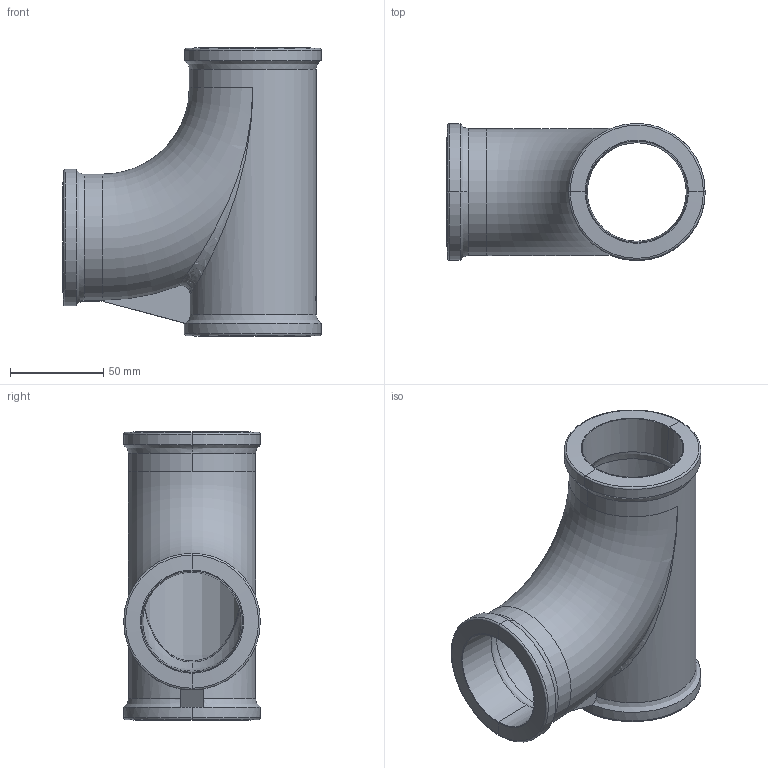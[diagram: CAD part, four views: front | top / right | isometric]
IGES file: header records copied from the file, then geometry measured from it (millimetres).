
Global section: file name: No Iges File Name specified; native system: AutoDesk Inventor R12.0; preprocessor: AutoDesk Inventor Iges Exporter R12.0; date: 20090917.104715; units: millimetre
Bounding box: 138.7 x 73.4 x 155 mm (x, y, z)
Volume: 250263 mm3; surface area: 93081.8 mm2
Topology: 1 solids, 1 shells, 77 faces, 214 edges, 138 vertices
Faces by surface type: bspline 25, plane 17, cylinder 12, revolution 10, torus 7, cone 6
